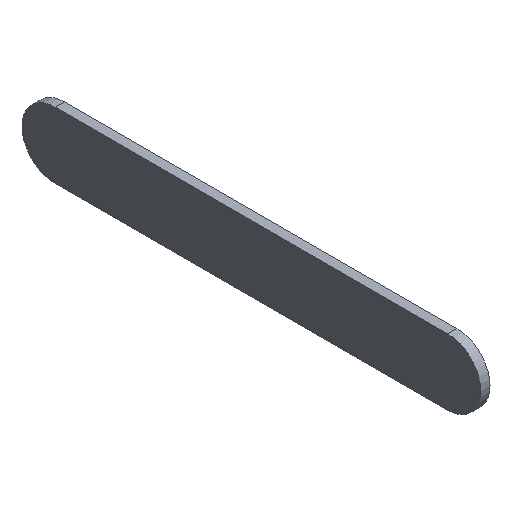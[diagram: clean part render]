
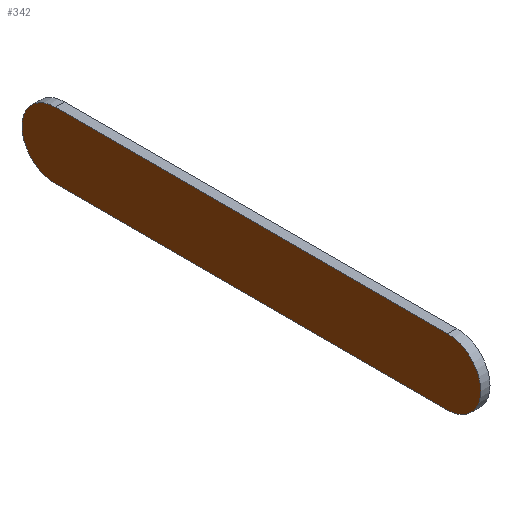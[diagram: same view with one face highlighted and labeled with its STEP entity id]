
A CAD part, isometric view. The second image highlights one B-rep face of the part: STEP entity #342.
In plain terms, the highlighted planar face has unit normal (-1, 0, 0).
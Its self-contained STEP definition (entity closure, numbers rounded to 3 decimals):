
#32 = PLANE('',#33);
#33 = AXIS2_PLACEMENT_3D('',#34,#35,#36);
#34 = CARTESIAN_POINT('',(-40.,-29.,19.25));
#35 = DIRECTION('',(0.,0.,1.));
#36 = DIRECTION('',(0.,1.,0.));
#57 = VERTEX_POINT('',#58);
#58 = CARTESIAN_POINT('',(-40.7,30.4,19.25));
#72 = CYLINDRICAL_SURFACE('',#73,5.);
#73 = AXIS2_PLACEMENT_3D('',#74,#75,#76);
#74 = CARTESIAN_POINT('',(-40.,30.4,14.25));
#75 = DIRECTION('',(-1.,0.,0.));
#76 = DIRECTION('',(0.,0.,1.));
#84 = EDGE_CURVE('',#85,#57,#87,.T.);
#85 = VERTEX_POINT('',#86);
#86 = CARTESIAN_POINT('',(-40.7,-29.,19.25));
#87 = SURFACE_CURVE('',#88,(#92,#99),.PCURVE_S1.);
#88 = LINE('',#89,#90);
#89 = CARTESIAN_POINT('',(-40.7,-29.,19.25));
#90 = VECTOR('',#91,1.);
#91 = DIRECTION('',(0.,1.,0.));
#92 = PCURVE('',#32,#93);
#93 = DEFINITIONAL_REPRESENTATION('',(#94),#98);
#94 = LINE('',#95,#96);
#95 = CARTESIAN_POINT('',(0.,0.7));
#96 = VECTOR('',#97,1.);
#97 = DIRECTION('',(1.,0.));
#98 = ( GEOMETRIC_REPRESENTATION_CONTEXT(2) 
PARAMETRIC_REPRESENTATION_CONTEXT() REPRESENTATION_CONTEXT('2D SPACE',''
  ) );
#99 = PCURVE('',#100,#105);
#100 = PLANE('',#101);
#101 = AXIS2_PLACEMENT_3D('',#102,#103,#104);
#102 = CARTESIAN_POINT('',(-40.7,0.7,14.25));
#103 = DIRECTION('',(-1.,-0.,-0.));
#104 = DIRECTION('',(0.,0.,-1.));
#105 = DEFINITIONAL_REPRESENTATION('',(#106),#110);
#106 = LINE('',#107,#108);
#107 = CARTESIAN_POINT('',(-5.,29.7));
#108 = VECTOR('',#109,1.);
#109 = DIRECTION('',(0.,-1.));
#110 = ( GEOMETRIC_REPRESENTATION_CONTEXT(2) 
PARAMETRIC_REPRESENTATION_CONTEXT() REPRESENTATION_CONTEXT('2D SPACE',''
  ) );
#126 = CYLINDRICAL_SURFACE('',#127,5.);
#127 = AXIS2_PLACEMENT_3D('',#128,#129,#130);
#128 = CARTESIAN_POINT('',(-40.,-29.,14.25));
#129 = DIRECTION('',(-1.,0.,0.));
#130 = DIRECTION('',(0.,0.,-1.));
#166 = EDGE_CURVE('',#167,#85,#169,.T.);
#167 = VERTEX_POINT('',#168);
#168 = CARTESIAN_POINT('',(-40.7,-29.,9.25));
#169 = SURFACE_CURVE('',#170,(#175,#182),.PCURVE_S1.);
#170 = CIRCLE('',#171,5.);
#171 = AXIS2_PLACEMENT_3D('',#172,#173,#174);
#172 = CARTESIAN_POINT('',(-40.7,-29.,14.25));
#173 = DIRECTION('',(-1.,0.,0.));
#174 = DIRECTION('',(0.,0.,-1.));
#175 = PCURVE('',#126,#176);
#176 = DEFINITIONAL_REPRESENTATION('',(#177),#181);
#177 = LINE('',#178,#179);
#178 = CARTESIAN_POINT('',(-0.,0.7));
#179 = VECTOR('',#180,1.);
#180 = DIRECTION('',(1.,-0.));
#181 = ( GEOMETRIC_REPRESENTATION_CONTEXT(2) 
PARAMETRIC_REPRESENTATION_CONTEXT() REPRESENTATION_CONTEXT('2D SPACE',''
  ) );
#182 = PCURVE('',#100,#183);
#183 = DEFINITIONAL_REPRESENTATION('',(#184),#188);
#184 = CIRCLE('',#185,5.);
#185 = AXIS2_PLACEMENT_2D('',#186,#187);
#186 = CARTESIAN_POINT('',(0.,29.7));
#187 = DIRECTION('',(1.,0.));
#188 = ( GEOMETRIC_REPRESENTATION_CONTEXT(2) 
PARAMETRIC_REPRESENTATION_CONTEXT() REPRESENTATION_CONTEXT('2D SPACE',''
  ) );
#204 = PLANE('',#205);
#205 = AXIS2_PLACEMENT_3D('',#206,#207,#208);
#206 = CARTESIAN_POINT('',(-40.,30.4,9.25));
#207 = DIRECTION('',(0.,0.,-1.));
#208 = DIRECTION('',(0.,-1.,0.));
#245 = VERTEX_POINT('',#246);
#246 = CARTESIAN_POINT('',(-40.7,30.4,9.25));
#267 = EDGE_CURVE('',#57,#245,#268,.T.);
#268 = SURFACE_CURVE('',#269,(#274,#281),.PCURVE_S1.);
#269 = CIRCLE('',#270,5.);
#270 = AXIS2_PLACEMENT_3D('',#271,#272,#273);
#271 = CARTESIAN_POINT('',(-40.7,30.4,14.25));
#272 = DIRECTION('',(-1.,0.,0.));
#273 = DIRECTION('',(0.,0.,1.));
#274 = PCURVE('',#72,#275);
#275 = DEFINITIONAL_REPRESENTATION('',(#276),#280);
#276 = LINE('',#277,#278);
#277 = CARTESIAN_POINT('',(-0.,0.7));
#278 = VECTOR('',#279,1.);
#279 = DIRECTION('',(1.,-0.));
#280 = ( GEOMETRIC_REPRESENTATION_CONTEXT(2) 
PARAMETRIC_REPRESENTATION_CONTEXT() REPRESENTATION_CONTEXT('2D SPACE',''
  ) );
#281 = PCURVE('',#100,#282);
#282 = DEFINITIONAL_REPRESENTATION('',(#283),#287);
#283 = CIRCLE('',#284,5.);
#284 = AXIS2_PLACEMENT_2D('',#285,#286);
#285 = CARTESIAN_POINT('',(0.,-29.7));
#286 = DIRECTION('',(-1.,0.));
#287 = ( GEOMETRIC_REPRESENTATION_CONTEXT(2) 
PARAMETRIC_REPRESENTATION_CONTEXT() REPRESENTATION_CONTEXT('2D SPACE',''
  ) );
#322 = EDGE_CURVE('',#245,#167,#323,.T.);
#323 = SURFACE_CURVE('',#324,(#328,#335),.PCURVE_S1.);
#324 = LINE('',#325,#326);
#325 = CARTESIAN_POINT('',(-40.7,30.4,9.25));
#326 = VECTOR('',#327,1.);
#327 = DIRECTION('',(0.,-1.,0.));
#328 = PCURVE('',#204,#329);
#329 = DEFINITIONAL_REPRESENTATION('',(#330),#334);
#330 = LINE('',#331,#332);
#331 = CARTESIAN_POINT('',(0.,0.7));
#332 = VECTOR('',#333,1.);
#333 = DIRECTION('',(1.,0.));
#334 = ( GEOMETRIC_REPRESENTATION_CONTEXT(2) 
PARAMETRIC_REPRESENTATION_CONTEXT() REPRESENTATION_CONTEXT('2D SPACE',''
  ) );
#335 = PCURVE('',#100,#336);
#336 = DEFINITIONAL_REPRESENTATION('',(#337),#341);
#337 = LINE('',#338,#339);
#338 = CARTESIAN_POINT('',(5.,-29.7));
#339 = VECTOR('',#340,1.);
#340 = DIRECTION('',(0.,1.));
#341 = ( GEOMETRIC_REPRESENTATION_CONTEXT(2) 
PARAMETRIC_REPRESENTATION_CONTEXT() REPRESENTATION_CONTEXT('2D SPACE',''
  ) );
#342 = ADVANCED_FACE('',(#343),#100,.T.);
#343 = FACE_BOUND('',#344,.T.);
#344 = EDGE_LOOP('',(#345,#346,#347,#348));
#345 = ORIENTED_EDGE('',*,*,#84,.T.);
#346 = ORIENTED_EDGE('',*,*,#267,.T.);
#347 = ORIENTED_EDGE('',*,*,#322,.T.);
#348 = ORIENTED_EDGE('',*,*,#166,.T.);
